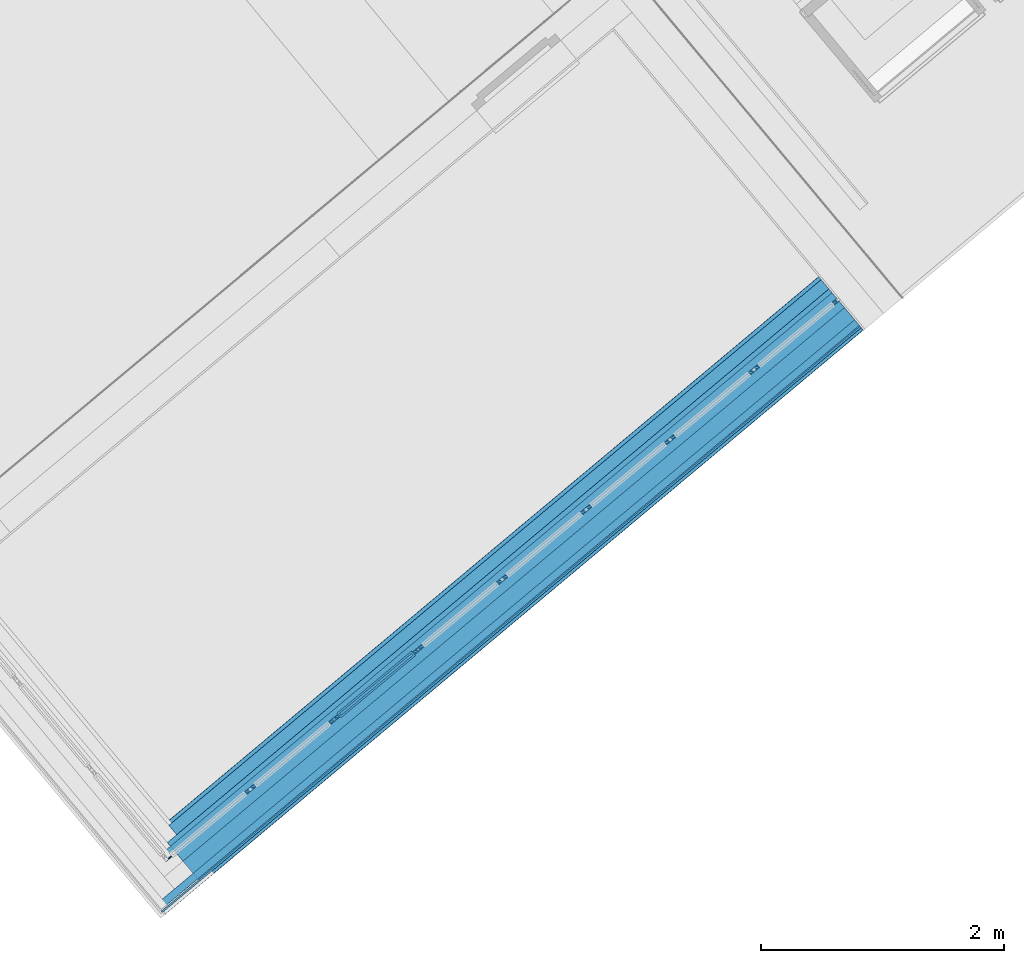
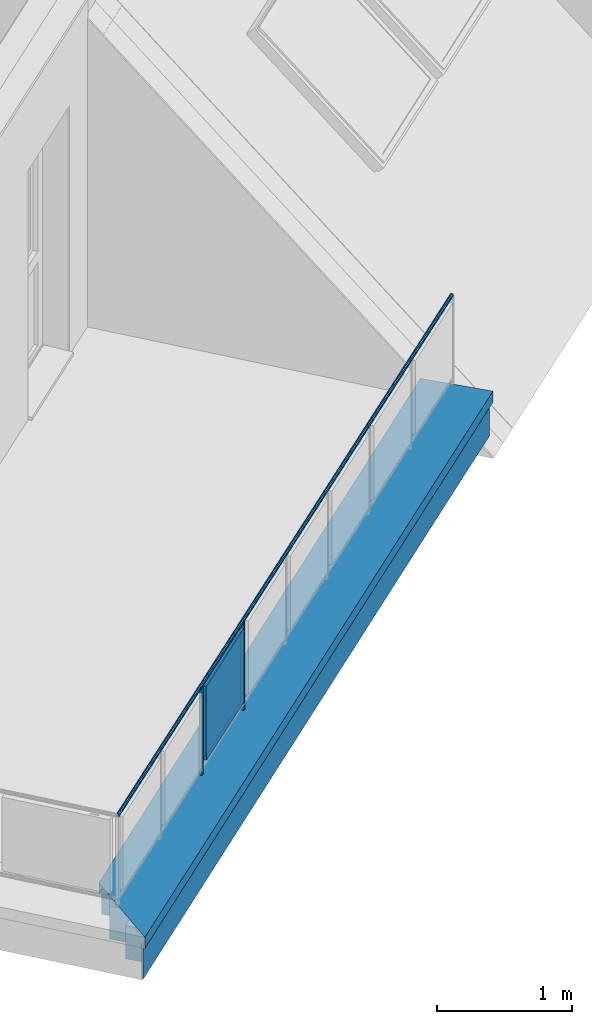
# One storey, part 13 of 47: 14 building element parts, 2 elements without a shape of their own.
"""IFC4 building model written with IfcOpenShell, lengths in metres."""

import ifcopenshell
import ifcopenshell.guid

model = None  # the IFC model being written
_history = None  # IfcOwnerHistory: only IFC2X3 demands one
_inside = {}  # id of a spatial element -> (the spatial element, [elements in it])
_under = {}  # id of a project, library or spatial element -> (it, [spatial elements below it])
_declared = {}  # id of a project -> (the project, [libraries it declares])
_typed = {}  # id of a type object -> (the type object, [elements of that type])
_made_of = {}  # id of a material, layer set ... -> (it, [elements and type objects made of it])


def new_model(schema):
    """Start an empty IFC model of exactly this schema.

    Asked for "IFC4X3", IfcOpenShell would pick the latest addendum, in which some entities
    have other attributes; the version numbers below select the first issue.
    IFC2X3 requires an IfcOwnerHistory on every rooted entity: one is made here for all.
    """
    global model, _history
    if schema == "IFC4X3":
        model = ifcopenshell.file(schema_version=(4, 3, 0, 0))
    else:
        model = ifcopenshell.file(schema=schema)
    _inside.clear()
    _under.clear()
    _declared.clear()
    _typed.clear()
    _made_of.clear()
    _history = None
    if model.schema == "IFC2X3":
        org = make("IfcOrganization", Name="unknown")
        user = make(
            "IfcPersonAndOrganization",
            ThePerson=make("IfcPerson", FamilyName="unknown"),
            TheOrganization=org,
        )
        app = make(
            "IfcApplication",
            ApplicationDeveloper=org,
            Version="unknown",
            ApplicationFullName="unknown",
            ApplicationIdentifier="unknown",
        )
        _history = make(
            "IfcOwnerHistory",
            OwningUser=user,
            OwningApplication=app,
            ChangeAction="ADDED",
            CreationDate=0,
        )
    return model


def make(cls, **values):
    """One entity of the class cls with the attributes given. An attribute that is None is left unset."""
    return model.create_entity(
        cls, **{name: value for name, value in values.items() if value is not None}
    )


def entity(cls, *values):
    """Any entity or typed value of the class cls, its attributes in the order of the schema. None: left unset."""
    e = model.create_entity(cls)
    for i, value in enumerate(values):
        if value is not None:
            e[i] = value
    return e


def rooted(cls, **values):
    """An entity with a GlobalId (a new one), such as an element, a storey or a relation."""
    return make(cls, GlobalId=ifcopenshell.guid.new(), OwnerHistory=_history, **values)


def si_unit(unit_type, name, prefix=None):
    """IfcSIUnit, for example si_unit("LENGTHUNIT", "METRE", prefix="MILLI")."""
    return make("IfcSIUnit", UnitType=unit_type, Prefix=prefix, Name=name)


def converted_unit(unit_type, name, factor, base, dimensions=None, offset=None):
    """IfcConversionBasedUnit, such as the inch: factor (a typed value) times the base unit."""
    return make(
        "IfcConversionBasedUnit"
        if offset is None
        else "IfcConversionBasedUnitWithOffset",
        ConversionOffset=offset,
        Dimensions=None
        if dimensions is None
        else entity("IfcDimensionalExponents", *dimensions),
        UnitType=unit_type,
        Name=name,
        ConversionFactor=make(
            "IfcMeasureWithUnit", ValueComponent=factor, UnitComponent=base
        ),
    )


def derived_unit(unit_type, elements):
    """IfcDerivedUnit: a product of units, each with its exponent."""
    return make(
        "IfcDerivedUnit",
        Elements=[
            make("IfcDerivedUnitElement", Unit=unit, Exponent=power)
            for unit, power in elements
        ],
        UnitType=unit_type,
    )


def assignment(units):
    """IfcUnitAssignment: the units of a project."""
    return None if units is None else make("IfcUnitAssignment", Units=units)


def point(xyz):
    """IfcCartesianPoint."""
    return None if xyz is None else make("IfcCartesianPoint", Coordinates=xyz)


def direction(xyz):
    """IfcDirection."""
    return None if xyz is None else make("IfcDirection", DirectionRatios=xyz)


def frame(location, z_axis=None, x_axis=None):
    """IfcAxis2Placement3D, a coordinate frame: its origin and axes. An axis left out is left unset."""
    return make(
        "IfcAxis2Placement3D",
        Location=point(location),
        Axis=direction(z_axis),
        RefDirection=direction(x_axis),
    )


def origin_with_axes():
    """The frame at (0, 0, 0) with the z axis (0, 0, 1) and the x axis (1, 0, 0) written out."""
    return frame((0.0, 0.0, 0.0), z_axis=(0.0, 0.0, 1.0), x_axis=(1.0, 0.0, 0.0))


def place(relative_to, where):
    """IfcLocalPlacement: puts the frame where relative to a parent placement (None: the world)."""
    return make(
        "IfcLocalPlacement", PlacementRelTo=relative_to, RelativePlacement=where
    )


def context(
    kind, dimensions, precision=None, world=None, true_north=None, identifier=None
):
    """IfcGeometricRepresentationContext, for example the 3D "Model" context."""
    return make(
        "IfcGeometricRepresentationContext",
        ContextIdentifier=identifier,
        ContextType=kind,
        CoordinateSpaceDimension=dimensions,
        Precision=precision,
        WorldCoordinateSystem=world,
        TrueNorth=true_north,
    )


def subcontext(parent, identifier, kind, view, scale=None):
    """IfcGeometricRepresentationSubContext, for example "Body" below "Model"."""
    return make(
        "IfcGeometricRepresentationSubContext",
        ContextIdentifier=identifier,
        ContextType=kind,
        ParentContext=parent,
        TargetScale=scale,
        TargetView=view,
    )


def project(units=None, contexts=None):
    """IfcProject with its units and contexts."""
    return rooted(
        "IfcProject",
        Name="project",
        RepresentationContexts=contexts,
        UnitsInContext=assignment(units),
    )


def spatial(cls, under=None, at=None, **own):
    """A site, building, storey or space (cls), placed at a placement, below another one or the project."""
    s = rooted(cls, ObjectPlacement=at, **own)
    if under is not None:
        _under.setdefault(under.id(), (under, []))[1].append(s)
    return s


def point_list(points):
    """IfcCartesianPointList2D or 3D."""
    cls = (
        "IfcCartesianPointList2D" if len(points[0]) == 2 else "IfcCartesianPointList3D"
    )
    return make(cls, CoordList=points)


def polygons(points, faces, closed=None, point_numbers=None):
    """IfcPolygonalFaceSet: a face is its outer loop, then its inner loops; points numbered from 1."""
    made = []
    for loops in faces:
        if len(loops) == 1:
            made.append(make("IfcIndexedPolygonalFace", CoordIndex=loops[0]))
        else:
            made.append(
                make(
                    "IfcIndexedPolygonalFaceWithVoids",
                    CoordIndex=loops[0],
                    InnerCoordIndices=loops[1:],
                )
            )
    return make(
        "IfcPolygonalFaceSet",
        Coordinates=point_list(points),
        Closed=closed,
        Faces=made,
        PnIndex=point_numbers,
    )


def shape(context_of_items, identifier, shape_type, items):
    """IfcShapeRepresentation: the items that make up one representation, for example the "Body"."""
    return make(
        "IfcShapeRepresentation",
        ContextOfItems=context_of_items,
        RepresentationIdentifier=identifier,
        RepresentationType=shape_type,
        Items=items,
    )


def material(Name=None, Category=None):
    """IfcMaterial."""
    return make("IfcMaterial", Name=Name, Category=Category)


def made_of(thing, what):
    """Note that an element or type object is made of a material, layer set ...; save() writes the relation."""
    if what is not None:
        _made_of.setdefault(what.id(), (what, []))[1].append(thing)
    return thing


def type_object(cls, material=None, **own):
    """A type object (cls), such as IfcWallType, which elements share."""
    return made_of(rooted(cls, **own), material)


def element(
    cls,
    number,
    at=None,
    inside=None,
    cuts=None,
    type_object=None,
    material=None,
    context=None,
    identifier="Body",
    shape_type=None,
    held_by="IfcProductDefinitionShape",
    body=None,
    shapes=None,
    **own,
):
    """One element of the class cls, such as IfcWall. Its Tag is "e" and its number.

    at: its placement. inside: the storey or other place that contains it. cuts: it is an
    opening in that element (IfcRelVoidsElement). A single representation is given by context,
    identifier, shape_type and body (its items); several are given by shapes. held_by: the class
    of the entity that holds the representations. save() writes the other relations.
    """
    e = rooted(cls, Tag="e%d" % number, ObjectPlacement=at, **own)
    if body is not None:
        shapes = [shape(context, identifier, shape_type, body)]
    if shapes is not None:
        e.Representation = make(held_by, Representations=shapes)
    if inside is not None:
        _inside.setdefault(inside.id(), (inside, []))[1].append(e)
    if cuts is not None:
        rooted(
            "IfcRelVoidsElement", RelatingBuildingElement=cuts, RelatedOpeningElement=e
        )
    if type_object is not None:
        _typed.setdefault(type_object.id(), (type_object, []))[1].append(e)
    return made_of(e, material)


def aggregate(whole, parts):
    """IfcRelAggregates: a whole, such as a stair, and the parts it consists of."""
    return rooted("IfcRelAggregates", RelatingObject=whole, RelatedObjects=parts)


def save(model, path):
    """Write the relations noted so far, then the file.

    IfcRelAggregates (storeys below a building ...), IfcRelContainedInSpatialStructure (elements
    in a storey), IfcRelDefinesByType, IfcRelAssociatesMaterial and IfcRelDeclares: one each for
    every whole, place, type object, material and project.
    """
    for whole, parts in _under.values():
        aggregate(whole, parts)
    for where, things in _inside.values():
        rooted(
            "IfcRelContainedInSpatialStructure",
            RelatedElements=things,
            RelatingStructure=where,
        )
    for kind, things in _typed.values():
        rooted("IfcRelDefinesByType", RelatedObjects=things, RelatingType=kind)
    for what, things in _made_of.values():
        rooted("IfcRelAssociatesMaterial", RelatedObjects=things, RelatingMaterial=what)
    for by, libraries in _declared.values():
        rooted("IfcRelDeclares", RelatingContext=by, RelatedDefinitions=libraries)
    model.write(path)


model = new_model("IFC4")

# Units and contexts
model_context = context("Model", 3, precision=1e-05, world=origin_with_axes(), true_north=direction((0.0, 1.0)))
body_context = subcontext(model_context, "Body", "Model", "MODEL_VIEW")
ifc_project = project(units=[si_unit("LENGTHUNIT", "METRE"), si_unit("AREAUNIT", "SQUARE_METRE"), si_unit("VOLUMEUNIT", "CUBIC_METRE"), converted_unit("PLANEANGLEUNIT", "DEGREE", entity("IfcPlaneAngleMeasure", 0.0174532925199), si_unit("PLANEANGLEUNIT", "RADIAN"), dimensions=[0, 0, 0, 0, 0, 0, 0]), converted_unit("TIMEUNIT", "Year", entity("IfcTimeMeasure", 31556926.0), si_unit("TIMEUNIT", "SECOND"), dimensions=[0, 0, 1, 0, 0, 0, 0]), si_unit("MASSUNIT", "GRAM", prefix="KILO"), si_unit("THERMODYNAMICTEMPERATUREUNIT", "DEGREE_CELSIUS"), si_unit("LUMINOUSINTENSITYUNIT", "LUMEN"), si_unit("ENERGYUNIT", "JOULE", prefix="MEGA"), derived_unit("THERMALCONDUCTANCEUNIT", [(si_unit("POWERUNIT", "WATT"), 1), (si_unit("LENGTHUNIT", "METRE"), -1), (si_unit("THERMODYNAMICTEMPERATUREUNIT", "KELVIN"), -1)]), derived_unit("SPECIFICHEATCAPACITYUNIT", [(si_unit("ENERGYUNIT", "JOULE"), 1), (si_unit("MASSUNIT", "GRAM", prefix="KILO"), -1), (si_unit("THERMODYNAMICTEMPERATUREUNIT", "KELVIN"), -1)]), derived_unit("MASSDENSITYUNIT", [(si_unit("MASSUNIT", "GRAM", prefix="KILO"), 1), (si_unit("VOLUMEUNIT", "CUBIC_METRE"), -1)])], contexts=[model_context])

# Site, building, storey
site_placement = place(None, frame((-0.00153261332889, -0.00661245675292, 0.0), z_axis=(0.0, 0.0, 1.0), x_axis=(1.0, 0.0, 0.0)))
site = spatial("IfcSite", under=ifc_project, at=site_placement, Name="Site", CompositionType="ELEMENT")
building_placement = place(site_placement, origin_with_axes())
building = spatial("IfcBuilding", under=site, at=building_placement, Name="Building", CompositionType="ELEMENT")
storey_placement = place(building_placement, frame((0.0, 0.0, 8.66), z_axis=(0.0, 0.0, 1.0), x_axis=(1.0, 0.0, 0.0)))
storey = spatial("IfcBuildingStorey", under=building, at=storey_placement, Name="DG2", CompositionType="ELEMENT", Elevation=8.66)

# Wall, building element parts
wall_type = type_object("IfcWallType", Name="Bauteil - Attika Terrasse 1.DG 574 x 410", PredefinedType="NOTDEFINED")
wall_placement = place(storey_placement, frame((-1.23091753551, 10.4352832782, -0.2), z_axis=(0.0, 0.0, 1.0), x_axis=(0.766948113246, 0.641709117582, 0.0)))
wall = element("IfcWall", 1, at=wall_placement, inside=storey, type_object=wall_type, Name="Wand-004", PredefinedType="NOTDEFINED")
ifc_material_1 = material(Name="Stahl")
building_element_part_1_placement = place(wall_placement, origin_with_axes())
building_element_part_1 = element("IfcBuildingElementPart", 2, at=building_element_part_1_placement, material=ifc_material_1, Name="Stahl", PredefinedType="NOTDEFINED", context=body_context, shape_type="Tessellation", body=[
    polygons([(-0.24030865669, -0.241500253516, 0.586106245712), (-0.240308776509, -0.241500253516, 0.587938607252), (-0.240307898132, -0.240151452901, 0.587938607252), (-0.240307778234, -0.240151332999, 0.586106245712), (-0.240304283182, -0.241500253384, 0.519224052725), (-0.240303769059, -0.241500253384, 0.511361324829), (-0.23838920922, -0.241500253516, 0.511361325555), (-0.239743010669, -0.241500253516, 0.510007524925), (7.29218276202, -0.241500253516, 0.510007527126), (7.29218276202, -0.241500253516, 0.610006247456), (-0.241657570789, -0.241500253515, 0.610006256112), (-0.202887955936, -0.241500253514, 0.608602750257), (-0.240310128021, -0.241500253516, 0.608602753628), (-0.240310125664, -0.241500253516, 0.608570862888), (-0.24030852, -0.241500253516, 0.584015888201), (-0.240307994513, -0.241500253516, 0.575979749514), (-0.240307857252, -0.241500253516, 0.573880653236), (-0.240307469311, -0.241500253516, 0.567947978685), (-0.240306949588, -0.241500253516, 0.560000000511), (-0.240309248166, -0.240152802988, 0.608570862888), (-0.238388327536, -0.24014644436, 0.511361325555), (-0.240302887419, -0.24014644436, 0.511361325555), (-0.240303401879, -0.240146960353, 0.519224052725), (-0.240306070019, -0.240149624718, 0.560000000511), (-0.240306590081, -0.240150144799, 0.567947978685), (-0.240306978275, -0.240150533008, 0.573880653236), (-0.240307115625, -0.240150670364, 0.575979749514), (-0.240307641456, -0.240151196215, 0.584015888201), (-0.240309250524, -0.240152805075, 0.608602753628), (-0.202887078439, -0.240152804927, 0.608602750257), (7.29218276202, -0.240152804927, 0.608602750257), (7.29218276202, -0.240146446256, 0.51136132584), (-0.240699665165, -0.240542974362, 0.50905023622), (-0.238387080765, -0.238231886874, 0.511361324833), (7.29218276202, -0.240542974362, 0.509050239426), (7.29218276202, 0.330698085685, 0.491006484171), (7.29218276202, 0.32288233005, 0.498822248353), (7.29218276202, 0.321878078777, 0.497911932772), (7.29218276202, 0.331094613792, 0.488695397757), (7.29218276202, 0.332051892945, 0.489652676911), (7.29218276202, 0.332051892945, 0.589243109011), (7.29218276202, -0.231373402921, 0.518219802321), (7.29218276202, -0.232283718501, 0.519224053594), (7.29218276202, -0.239276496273, 0.608570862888), (7.29218276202, 0.330698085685, 0.587937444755), (-0.202862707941, -0.202730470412, 0.608602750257), (0.332268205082, 0.332051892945, 0.589243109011), (-0.201981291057, -0.201849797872, 0.608570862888), (-0.202005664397, -0.239276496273, 0.608570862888), (-0.231525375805, -0.233287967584, 0.518219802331), (-0.232435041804, -0.23228372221, 0.519224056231), (-0.23152412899, -0.23137340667, 0.518219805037), (0.330913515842, 0.33069808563, 0.49100648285), (0.323092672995, 0.322882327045, 0.498822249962), (0.332267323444, 0.330698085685, 0.491006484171), (0.32400232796, 0.32187807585, 0.497911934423), (0.332266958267, 0.330137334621, 0.489652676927), (0.331310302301, 0.331094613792, 0.488695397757), (0.330912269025, 0.328783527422, 0.49100648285), (0.332266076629, 0.328783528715, 0.491006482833), (0.332268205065, 0.332051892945, 0.489652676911), (0.332268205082, 0.332051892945, 0.49100648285), (0.332268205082, 0.332051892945, 0.498822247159), (0.332268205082, 0.332051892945, 0.499999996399), (0.332268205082, 0.332051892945, 0.50905023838), (0.332268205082, 0.332051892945, 0.511361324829), (0.332268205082, 0.332051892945, 0.519224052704), (0.332268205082, 0.332051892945, 0.559999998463), (0.332268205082, 0.332051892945, 0.567947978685), (0.332268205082, 0.332051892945, 0.573880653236), (0.332268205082, 0.332051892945, 0.575979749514), (0.332268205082, 0.332051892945, 0.584015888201), (0.332268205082, 0.332051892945, 0.586106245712), (0.332268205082, 0.332051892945, 0.587938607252), (0.332243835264, 0.294630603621, 0.589243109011), (0.332267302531, 0.330665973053, 0.587938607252), (0.332267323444, 0.330698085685, 0.587937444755), (0.332267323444, 0.330698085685, 0.498822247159), (0.332267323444, 0.330698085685, 0.586106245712), (0.332267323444, 0.330698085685, 0.584015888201), (0.332267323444, 0.330698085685, 0.575979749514), (0.332267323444, 0.330698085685, 0.573880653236), (0.332267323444, 0.330698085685, 0.567947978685), (0.332267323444, 0.330698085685, 0.559999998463), (0.332267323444, 0.330698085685, 0.519224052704), (0.332267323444, 0.330698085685, 0.511361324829), (0.332267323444, 0.330698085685, 0.50905023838), (0.332267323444, 0.330698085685, 0.499999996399)], [[[1, 2, 3, 4]], [[5, 6, 7, 8, 9, 10, 11, 12, 13, 14, 2, 1, 15, 16, 17, 18, 19]], [[14, 20, 3, 2]], [[21, 22, 23, 24, 25, 26, 27, 28, 4, 3, 20, 29, 30, 31, 32]], [[15, 1, 4, 28]], [[22, 6, 5, 23]], [[6, 22, 21, 7]], [[33, 8, 7, 21, 34]], [[8, 33, 35, 9]], [[36, 37, 38, 39, 40, 41, 10, 9, 35, 42, 43, 32, 31, 44, 45]], [[46, 11, 10, 41, 47, 48]], [[12, 11, 46, 30]], [[29, 13, 12, 30]], [[20, 14, 13, 29]], [[16, 15, 28, 27]], [[17, 16, 27, 26]], [[18, 17, 26, 25]], [[19, 18, 25, 24]], [[5, 19, 24, 23]], [[30, 49, 44, 31]], [[50, 21, 32, 43, 51]], [[34, 21, 50, 52]], [[33, 34, 52, 42, 35]], [[53, 54, 37, 36, 55]], [[54, 56, 38, 37]], [[57, 58, 39, 38, 56, 59, 60]], [[58, 61, 40, 39]], [[62, 63, 64, 65, 66, 67, 68, 69, 70, 71, 72, 73, 74, 47, 41, 40, 61]], [[52, 51, 43, 42]], [[49, 75, 76, 77, 45, 44]], [[78, 55, 36, 45, 77, 79, 80, 81, 82, 83, 84, 85, 86, 87, 88]], [[49, 48, 47, 75]], [[48, 49, 30, 46]], [[51, 52, 50]], [[56, 54, 53, 59]], [[53, 55, 60, 59]], [[58, 57, 61]], [[60, 55, 62, 61, 57]], [[55, 78, 63, 62]], [[78, 88, 64, 63]], [[88, 87, 65, 64]], [[87, 86, 66, 65]], [[86, 85, 67, 66]], [[85, 84, 68, 67]], [[68, 84, 83, 69]], [[69, 83, 82, 70]], [[81, 71, 70, 82]], [[71, 81, 80, 72]], [[72, 80, 79, 73]], [[73, 79, 77, 74]], [[76, 75, 47, 74, 77]]], closed=True),
])
ifc_material_2 = material(Name="Holzwerkstoff")
building_element_part_2_placement = place(wall_placement, origin_with_axes())
building_element_part_2 = element("IfcBuildingElementPart", 3, at=building_element_part_2_placement, material=ifc_material_2, Name="Holzwerkstoff", PredefinedType="NOTDEFINED", context=body_context, shape_type="Tessellation", body=[
    polygons([(-0.239432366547, -0.239276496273, 0.608570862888), (0.330913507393, 0.330698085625, 0.587938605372), (0.330541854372, -0.23999699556, 0.587938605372), (7.29218276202, -0.239276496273, 0.608570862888), (7.29218276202, 0.330698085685, 0.587938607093), (0.330849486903, 0.330634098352, 0.586106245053), (0.330510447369, -0.189985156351, 0.5861062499), (0.330538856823, -0.239999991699, 0.587852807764), (7.29218276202, -0.239999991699, 0.587852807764), (7.29218276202, 0.160110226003, 0.573880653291), (7.29218276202, 0.329999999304, 0.567947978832), (7.29218276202, -0.189984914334, 0.586106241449), (7.29218276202, -0.130124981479, 0.584015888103), (7.29218276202, 0.100000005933, 0.575979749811), (0.330214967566, 0.329999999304, 0.567947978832), (0.330422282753, 0.330207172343, 0.573880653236), (0.33049563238, 0.330280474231, 0.57597974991), (0.330776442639, 0.330561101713, 0.584015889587), (0.330476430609, -0.130125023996, 0.584015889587), (0.330311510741, 0.160110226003, 0.573880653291), (0.330345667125, 0.100000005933, 0.575979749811)], [[[1, 2, 3]], [[2, 1, 4, 5]], [[2, 6, 7, 8, 3]], [[1, 3, 8, 9, 4]], [[10, 11, 5, 4, 9, 12, 13, 14]], [[15, 16, 17, 18, 6, 2, 5, 11]], [[18, 19, 7, 6]], [[8, 7, 12, 9]], [[20, 15, 11, 10]], [[7, 19, 13, 12]], [[21, 14, 13, 19]], [[21, 20, 10, 14]], [[15, 20, 16]], [[20, 21, 17, 16]], [[17, 21, 19, 18]]], closed=True),
])
ifc_material_3 = material(Name="EPS 1")
building_element_part_3_placement = place(wall_placement, origin_with_axes())
building_element_part_3 = element("IfcBuildingElementPart", 4, at=building_element_part_3_placement, material=ifc_material_3, Name="EPS 1", PredefinedType="NOTDEFINED", context=body_context, shape_type="Tessellation", body=[
    polygons([(0.300195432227, 0.3, 0.560000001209), (0.300130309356, 0.2, 0.560000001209), (7.29218276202, 0.2, 0.560000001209), (7.29218276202, 0.3, 0.560000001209), (0.300130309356, 0.2, 0.519224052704), (0.300195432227, 0.3, 0.519224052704), (0.300130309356, 0.2, 0.511361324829), (0.300130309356, 0.2, 0.50905023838), (0.300130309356, 0.2, 0.499999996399), (0.300130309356, 0.2, 0.498822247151), (0.300130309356, 0.2, 0.49100648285), (0.300130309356, 0.2, 0.488695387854), (0.300130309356, 0.2, 0.335), (7.29218276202, 0.2, 0.335), (7.29218276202, 0.3, 0.335), (0.300195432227, 0.3, 0.335), (0.300195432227, 0.3, 0.488695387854), (0.300195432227, 0.3, 0.49100648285), (0.300195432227, 0.3, 0.498822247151), (0.300195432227, 0.3, 0.499999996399), (0.300195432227, 0.3, 0.50905023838), (0.300195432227, 0.3, 0.511361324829)], [[[1, 2, 3, 4]], [[5, 2, 1, 6]], [[2, 5, 7, 8, 9, 10, 11, 12, 13, 14, 3]], [[14, 15, 4, 3]], [[6, 1, 4, 15, 16, 17, 18, 19, 20, 21, 22]], [[5, 6, 22, 7]], [[7, 22, 21, 8]], [[8, 21, 20, 9]], [[9, 20, 19, 10]], [[10, 19, 18, 11]], [[11, 18, 17, 12]], [[12, 17, 16, 13]], [[13, 16, 15, 14]]], closed=True),
])
ifc_material_4 = material(Name="Vollholz")
building_element_part_4_placement = place(wall_placement, origin_with_axes())
building_element_part_4 = element("IfcBuildingElementPart", 5, at=building_element_part_4_placement, material=ifc_material_4, Name="Vollholz", PredefinedType="NOTDEFINED", context=body_context, shape_type="Tessellation", body=[
    polygons([(0.100065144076, 0.100000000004, 0.575979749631), (0.16017538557, 0.1, 0.573880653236), (0.160128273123, 0.1, 0.567947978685), (0.160065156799, 0.1, 0.560000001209), (7.29218276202, 0.1, 0.560000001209), (7.29218276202, 0.1, 0.575979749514), (0.160214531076, 0.160110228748, 0.573880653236), (0.160167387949, 0.160063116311, 0.567947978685), (0.160104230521, 0.16, 0.560000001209), (7.29218276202, 0.16, 0.560000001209), (7.29218276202, 0.160110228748, 0.573880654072)], [[[1, 2, 3, 4, 5, 6]], [[7, 2, 1]], [[2, 7, 8, 3]], [[3, 8, 9, 4]], [[4, 9, 10, 5]], [[10, 11, 6, 5]], [[7, 1, 6, 11]], [[8, 7, 11, 10, 9]]], closed=True),
])
ifc_material_5 = material(Name="Stahlbeton")
building_element_part_5_placement = place(wall_placement, origin_with_axes())
building_element_part_5 = element("IfcBuildingElementPart", 6, at=building_element_part_5_placement, material=ifc_material_5, Name="Stahlbeton", PredefinedType="NOTDEFINED", context=body_context, shape_type="Tessellation", body=[
    polygons([(0.200130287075, 0.199999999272, 0.500000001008), (0.200000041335, 2.17661977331e-09, 0.500000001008), (7.29218276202, 1.82835790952e-09, 0.500000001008), (7.29218276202, 0.199999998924, 0.500000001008), (0.200000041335, 2.19700169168e-09, 0.498822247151), (0.200130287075, 0.199999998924, 0.498822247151), (0.200000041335, 2.19700169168e-09, 0.49100648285), (0.200000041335, 2.19700169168e-09, 0.488695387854), (0.200000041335, 2.19699991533e-09, 0.335), (0.200000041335, 1.82835790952e-09, 0.2), (7.29218276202, 1.82835790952e-09, 0.2), (7.29218276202, 0.199999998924, 0.2), (7.29218276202, 0.199999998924, 0.335000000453), (0.200130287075, 0.199999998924, 0.335), (0.200130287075, 0.199999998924, 0.488695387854), (0.200130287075, 0.199999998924, 0.49100648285), (0.200130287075, 0.199999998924, 0.2)], [[[1, 2, 3, 4]], [[5, 2, 1, 6]], [[2, 5, 7, 8, 9, 10, 11, 3]], [[12, 13, 4, 3, 11]], [[6, 1, 4, 13, 14, 15, 16]], [[5, 6, 16, 7]], [[7, 16, 15, 8]], [[8, 15, 14, 9]], [[9, 14, 17, 10]], [[10, 17, 12, 11]], [[17, 14, 13, 12]]], closed=True),
])
building_element_part_6_placement = place(wall_placement, origin_with_axes())
building_element_part_6 = element("IfcBuildingElementPart", 7, at=building_element_part_6_placement, material=ifc_material_3, Name="EPS 1", PredefinedType="NOTDEFINED", context=body_context, shape_type="Tessellation", body=[
    polygons([(-2.39831265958e-10, 1.18175691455e-10, 0.499999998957), (-0.000130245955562, -0.199999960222, 0.499999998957), (7.29218276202, -0.19999996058, 0.499999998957), (7.29218276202, -2.39907649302e-10, 0.499999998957), (-0.000130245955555, -0.199999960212, 0.498822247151), (-2.40063968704e-10, -2.39907649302e-10, 0.498822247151), (-0.000130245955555, -0.199999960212, 0.49100648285), (-0.000130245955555, -0.199999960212, 0.488695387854), (-0.000130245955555, -0.199999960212, 0.335), (-0.000130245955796, -0.19999996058, 0.2), (7.29218276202, -0.19999996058, 0.2), (7.29218276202, -2.39907649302e-10, 0.2), (-2.40063968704e-10, -2.39907649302e-10, 0.2), (-2.40063968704e-10, -2.39907649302e-10, 0.335), (-2.40063968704e-10, -2.39907649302e-10, 0.488695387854), (-2.40063968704e-10, -2.39907649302e-10, 0.49100648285)], [[[1, 2, 3, 4]], [[5, 2, 1, 6]], [[2, 5, 7, 8, 9, 10, 11, 3]], [[11, 12, 4, 3]], [[6, 1, 4, 12, 13, 14, 15, 16]], [[5, 6, 16, 7]], [[7, 16, 15, 8]], [[8, 15, 14, 9]], [[9, 14, 13, 10]], [[10, 13, 12, 11]]], closed=True),
])
building_element_part_7_placement = place(wall_placement, origin_with_axes())
building_element_part_7 = element("IfcBuildingElementPart", 8, at=building_element_part_7_placement, material=ifc_material_4, Name="Vollholz", PredefinedType="NOTDEFINED", context=body_context, shape_type="Tessellation", body=[
    polygons([(-0.190108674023, -0.189984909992, 0.586106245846), (-0.130248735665, -0.189996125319, 0.584015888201), (-0.130248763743, -0.190039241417, 0.575979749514), (-0.130248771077, -0.190050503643, 0.573880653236), (-0.130248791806, -0.190082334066, 0.567947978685), (-0.130248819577, -0.190124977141, 0.560000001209), (7.29218276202, -0.190124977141, 0.560000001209), (7.29218276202, -0.189984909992, 0.586106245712), (-0.130209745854, -0.130124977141, 0.584015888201), (-0.130209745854, -0.130124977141, 0.575979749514), (-0.130209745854, -0.130124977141, 0.573880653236), (-0.130209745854, -0.130124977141, 0.567947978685), (-0.130209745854, -0.130124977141, 0.560000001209), (7.29218276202, -0.130124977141, 0.560000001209), (7.29218276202, -0.130124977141, 0.584015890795)], [[[1, 2, 3, 4, 5, 6, 7, 8]], [[9, 2, 1]], [[2, 9, 10, 3]], [[3, 10, 11, 4]], [[4, 11, 12, 5]], [[5, 12, 13, 6]], [[6, 13, 14, 7]], [[14, 15, 8, 7]], [[9, 1, 8, 15]], [[10, 9, 15, 14, 13, 12, 11]]], closed=True),
])
ifc_material_6 = material(Name="Zementputz")
building_element_part_8_placement = place(wall_placement, origin_with_axes())
building_element_part_8 = element("IfcBuildingElementPart", 9, at=building_element_part_8_placement, material=ifc_material_6, Name="Zementputz", PredefinedType="NOTDEFINED", context=body_context, shape_type="Tessellation", body=[
    polygons([(-0.20013024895, -0.199999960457, 0.499999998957), (-0.200140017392, -0.214999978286, 0.499999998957), (7.29218276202, -0.214999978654, 0.499999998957), (7.29218276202, -0.199999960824, 0.499999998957), (-0.200140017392, -0.214999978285, 0.498822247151), (-0.20013024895, -0.199999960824, 0.498822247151), (-0.200140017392, -0.214999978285, 0.49100648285), (-0.200140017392, -0.214999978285, 0.488695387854), (-0.200140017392, -0.214999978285, 0.335), (-0.200140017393, -0.214999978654, 0.2), (7.29218276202, -0.214999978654, 0.2), (7.29218276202, -0.199999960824, 0.2), (-0.20013024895, -0.199999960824, 0.2), (-0.20013024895, -0.199999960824, 0.335), (-0.20013024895, -0.199999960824, 0.488695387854), (-0.20013024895, -0.199999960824, 0.49100648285)], [[[1, 2, 3, 4]], [[5, 2, 1, 6]], [[2, 5, 7, 8, 9, 10, 11, 3]], [[3, 11, 12, 4]], [[6, 1, 4, 12, 13, 14, 15, 16]], [[5, 6, 16, 7]], [[7, 16, 15, 8]], [[8, 15, 14, 9]], [[9, 14, 13, 10]], [[10, 13, 12, 11]]], closed=True),
])
ifc_material_7 = material(Name="Brettschichtholz")
building_element_part_9_placement = place(wall_placement, origin_with_axes())
building_element_part_9 = element("IfcBuildingElementPart", 10, at=building_element_part_9_placement, material=ifc_material_7, Name="Brettschichtholz", PredefinedType="NOTDEFINED", context=body_context, shape_type="Tessellation", body=[
    polygons([(0.199876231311, -0.190124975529, 0.559999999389), (0.199860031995, -0.214999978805, 0.559999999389), (7.29218276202, -0.214999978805, 0.559999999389), (7.29218276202, -0.190124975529, 0.559999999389), (0.199860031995, -0.214999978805, 0.519224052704), (0.199915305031, -0.130124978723, 0.559999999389), (0.200065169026, 0.100000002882, 0.559999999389), (0.200104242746, 0.159999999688, 0.559999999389), (0.200130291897, 0.200000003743, 0.559999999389), (0.200130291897, 0.200000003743, 0.519224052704), (0.199860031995, -0.214999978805, 0.511361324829), (0.199860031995, -0.214999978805, 0.50905023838), (0.199860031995, -0.214999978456, 0.500000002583), (7.29218276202, -0.214999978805, 0.499999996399), (7.29218276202, 0.100000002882, 0.559999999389), (7.29218276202, -0.130124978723, 0.559999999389), (7.29218276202, 0.200000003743, 0.500000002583), (7.29218276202, 0.200000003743, 0.559999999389), (7.29218276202, 0.159999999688, 0.559999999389), (0.200130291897, 0.200000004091, 0.500000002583), (0.200130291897, 0.200000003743, 0.50905023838), (0.200130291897, 0.200000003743, 0.511361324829)], [[[1, 2, 3, 4]], [[5, 2, 1, 6, 7, 8, 9, 10]], [[2, 5, 11, 12, 13, 14, 3]], [[15, 16, 4, 3, 14, 17, 18, 19]], [[6, 1, 4, 16]], [[7, 6, 16, 15]], [[8, 7, 15, 19]], [[9, 8, 19, 18]], [[10, 9, 18, 17, 20, 21, 22]], [[5, 10, 22, 11]], [[11, 22, 21, 12]], [[12, 21, 20, 13]], [[13, 20, 17, 14]]], closed=True),
])
aggregate(wall, [building_element_part_1, building_element_part_2, building_element_part_3, building_element_part_4, building_element_part_5, building_element_part_6, building_element_part_7, building_element_part_8, building_element_part_9])

# Railing, building element parts
railing_type = type_object("IfcRailingType", Name="Geländerart", PredefinedType="NOTDEFINED")
railing_placement = place(storey_placement, frame((-3.01466342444, 12.8116891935, 0.38), z_axis=(0.0, 0.0, 1.0), x_axis=(1.0, 0.0, 0.0)))
railing = element("IfcRailing", 11, at=railing_placement, inside=storey, type_object=railing_type, Name="Geländer - 001", PredefinedType="NOTDEFINED")
ifc_material_8 = material(Name="Aluminium")
building_element_part_10_placement = place(railing_placement, origin_with_axes())
building_element_part_10 = element("IfcBuildingElementPart", 12, at=building_element_part_10_placement, material=ifc_material_8, Name="Aluminium", PredefinedType="NOTDEFINED", context=body_context, shape_type="Tessellation", body=[
    polygons([(1.80279568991, -2.21040989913, 0.825), (1.80276676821, -2.21073055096, 0.827604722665), (7.31327435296, 2.37859456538, 0.827604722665), (7.31312851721, 2.37876967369, 0.825), (1.80276676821, -2.21073055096, 0.822395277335), (1.80268088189, -2.21168276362, 0.81986969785), (1.80254064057, -2.21323760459, 0.8175), (1.80235030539, -2.21534783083, 0.815358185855), (1.80211565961, -2.21794932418, 0.813509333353), (1.80184383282, -2.22096303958, 0.812009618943), (1.80154308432, -2.22429740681, 0.810904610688), (1.80122255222, -2.22785111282, 0.810227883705), (1.80089197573, -2.23151618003, 0.81), (1.80056139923, -2.23518124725, 0.810227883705), (1.80024086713, -2.23873495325, 0.810904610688), (1.79994011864, -2.24206932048, 0.812009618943), (1.79966829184, -2.24508303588, 0.813509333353), (1.79943364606, -2.24768452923, 0.815358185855), (1.79924331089, -2.24979475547, 0.8175), (1.79910306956, -2.25134959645, 0.81986969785), (1.79901718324, -2.2523018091, 0.822395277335), (1.79898826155, -2.25262246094, 0.825), (1.79901718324, -2.2523018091, 0.827604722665), (1.79910306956, -2.25134959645, 0.83013030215), (1.79924331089, -2.24979475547, 0.8325), (1.79943364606, -2.24768452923, 0.834641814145), (1.79966829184, -2.24508303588, 0.836490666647), (1.79994011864, -2.24206932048, 0.837990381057), (1.80024086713, -2.23873495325, 0.839095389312), (1.80056139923, -2.23518124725, 0.839772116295), (1.80089197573, -2.23151618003, 0.84), (1.80122255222, -2.22785111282, 0.839772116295), (1.80154308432, -2.22429740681, 0.839095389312), (1.80184383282, -2.22096303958, 0.837990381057), (1.80211565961, -2.21794932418, 0.836490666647), (1.80235030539, -2.21534783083, 0.834641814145), (1.80254064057, -2.21323760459, 0.8325), (1.80268088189, -2.21168276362, 0.83013030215), (7.31370742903, 2.37807456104, 0.83013030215), (7.31441458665, 2.37722546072, 0.8325), (7.31537433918, 2.37607306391, 0.834641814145), (7.31655752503, 2.37465238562, 0.836490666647), (7.31792819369, 2.37300659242, 0.837990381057), (7.31944469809, 2.37118569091, 0.839095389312), (7.32106096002, 2.36924500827, 0.839772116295), (7.32272787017, 2.36724351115, 0.84), (7.32439478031, 2.36524201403, 0.839772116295), (7.32601104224, 2.36330133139, 0.839095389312), (7.32752754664, 2.36148042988, 0.837990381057), (7.3288982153, 2.35983463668, 0.836490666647), (7.33008140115, 2.35841395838, 0.834641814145), (7.33104115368, 2.35726156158, 0.8325), (7.3317483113, 2.35641246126, 0.83013030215), (7.33218138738, 2.35589245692, 0.827604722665), (7.33232722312, 2.35571734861, 0.825), (7.33218138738, 2.35589245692, 0.822395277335), (7.3317483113, 2.35641246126, 0.81986969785), (7.33104115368, 2.35726156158, 0.8175), (7.33008140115, 2.35841395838, 0.815358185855), (7.3288982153, 2.35983463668, 0.813509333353), (7.32752754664, 2.36148042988, 0.812009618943), (7.32601104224, 2.36330133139, 0.810904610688), (7.32439478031, 2.36524201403, 0.810227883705), (7.32272787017, 2.36724351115, 0.81), (7.32106096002, 2.36924500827, 0.810227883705), (7.31944469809, 2.37118569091, 0.810904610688), (7.31792819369, 2.37300659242, 0.812009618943), (7.31655752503, 2.37465238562, 0.813509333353), (7.31537433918, 2.37607306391, 0.815358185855), (7.31441458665, 2.37722546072, 0.8175), (7.31370742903, 2.37807456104, 0.81986969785), (7.31327435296, 2.37859456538, 0.822395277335)], [[[1, 2, 3, 4]], [[1, 5, 6, 7, 8, 9, 10, 11, 12, 13, 14, 15, 16, 17, 18, 19, 20, 21, 22, 23, 24, 25, 26, 27, 28, 29, 30, 31, 32, 33, 34, 35, 36, 37, 38, 2]], [[2, 38, 39, 3]], [[4, 3, 39, 40, 41, 42, 43, 44, 45, 46, 47, 48, 49, 50, 51, 52, 53, 54, 55, 56, 57, 58, 59, 60, 61, 62, 63, 64, 65, 66, 67, 68, 69, 70, 71, 72]], [[5, 1, 4, 72]], [[6, 5, 72, 71]], [[7, 6, 71, 70]], [[8, 7, 70, 69]], [[9, 8, 69, 68]], [[10, 9, 68, 67]], [[11, 10, 67, 66]], [[12, 11, 66, 65]], [[13, 12, 65, 64]], [[14, 13, 64, 63]], [[15, 14, 63, 62]], [[16, 15, 62, 61]], [[17, 16, 61, 60]], [[18, 17, 60, 59]], [[19, 18, 59, 58]], [[20, 19, 58, 57]], [[21, 20, 57, 56]], [[22, 21, 56, 55]], [[23, 22, 55, 54]], [[24, 23, 54, 53]], [[25, 24, 53, 52]], [[26, 25, 52, 51]], [[27, 26, 51, 50]], [[28, 27, 50, 49]], [[29, 28, 49, 48]], [[30, 29, 48, 47]], [[31, 30, 47, 46]], [[32, 31, 46, 45]], [[33, 32, 45, 44]], [[34, 33, 44, 43]], [[35, 34, 43, 42]], [[36, 35, 42, 41]], [[37, 36, 41, 40]], [[38, 37, 40, 39]]], closed=True),
])
building_element_part_11_placement = place(railing_placement, origin_with_axes())
building_element_part_11 = element("IfcBuildingElementPart", 13, at=building_element_part_11_placement, material=ifc_material_8, Name="Aluminium", PredefinedType="NOTDEFINED", context=body_context, shape_type="Tessellation", body=[
    polygons([(3.19895554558, -1.0834319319, -0.3), (3.18295662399, -1.06422166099, -0.3), (3.18295662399, -1.06422166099, 0.82), (3.19895554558, -1.0834319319, 0.82), (3.17974527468, -1.09943085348, -0.3), (3.16374635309, -1.08022058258, -0.3), (3.16374635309, -1.08022058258, 0.82), (3.17974527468, -1.09943085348, 0.82)], [[[1, 2, 3, 4]], [[1, 5, 6, 2]], [[2, 6, 7, 3]], [[4, 3, 7, 8]], [[5, 1, 4, 8]], [[6, 5, 8, 7]]], closed=True),
])
ifc_material_9 = material(Name="Profilit")
building_element_part_12_placement = place(railing_placement, origin_with_axes())
building_element_part_12 = element("IfcBuildingElementPart", 14, at=building_element_part_12_placement, material=ifc_material_9, Name="Profilit", PredefinedType="NOTDEFINED", context=body_context, shape_type="Tessellation", body=[
    polygons([(3.81523416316, -0.5408943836, 0.135), (3.22489808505, -1.03254495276, 0.135), (3.22489808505, -1.03254495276, 0.775), (3.81523416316, -0.5408943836, 0.775), (3.23769722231, -1.04791316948, 0.135), (3.82803330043, -0.556262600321, 0.135), (3.23769722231, -1.04791316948, 0.775), (3.82803330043, -0.556262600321, 0.775)], [[[1, 2, 3, 4]], [[5, 2, 1, 6]], [[7, 3, 2, 5]], [[4, 3, 7, 8]], [[1, 4, 8, 6]], [[7, 5, 6, 8]]], closed=True),
])
building_element_part_13_placement = place(railing_placement, origin_with_axes())
building_element_part_13 = element("IfcBuildingElementPart", 15, at=building_element_part_13_placement, material=ifc_material_8, Name="Aluminium", PredefinedType="NOTDEFINED", context=body_context, shape_type="Tessellation", body=[
    polygons([(3.29501268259, -0.983911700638, 0.12), (3.34880144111, -0.9391147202, 0.12), (3.34880144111, -0.9391147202, 0.095), (3.29501268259, -0.983911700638, 0.095), (3.29821246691, -0.987753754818, 0.12), (3.35200122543, -0.94295677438, 0.12), (3.35200122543, -0.94295677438, 0.095), (3.29821246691, -0.987753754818, 0.095)], [[[1, 2, 3, 4]], [[5, 6, 2, 1]], [[2, 6, 7, 3]], [[4, 3, 7, 8]], [[1, 4, 8, 5]], [[8, 7, 6, 5]]], closed=True),
    polygons([(3.75471891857, -0.601053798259, 0.79), (3.70093016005, -0.645850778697, 0.79), (3.70093016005, -0.645850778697, 0.795), (3.75471891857, -0.601053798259, 0.795), (3.75791870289, -0.604895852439, 0.79), (3.70412994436, -0.649692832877, 0.79), (3.70412994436, -0.649692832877, 0.795), (3.75791870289, -0.604895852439, 0.795)], [[[1, 2, 3, 4]], [[5, 6, 2, 1]], [[2, 6, 7, 3]], [[4, 3, 7, 8]], [[1, 4, 8, 5]], [[8, 7, 6, 5]]], closed=True),
    polygons([(3.23577041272, -1.06903868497, 0.12), (3.20377256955, -1.03061814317, 0.12), (3.81716097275, -0.519768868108, 0.12), (3.84915881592, -0.558189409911, 0.12), (3.25113862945, -1.0562395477, 0.14), (3.2415392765, -1.04471338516, 0.14), (3.23769722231, -1.04791316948, 0.135), (3.22489808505, -1.03254495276, 0.135), (3.22874013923, -1.02934516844, 0.14), (3.21914078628, -1.0178190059, 0.14), (3.80179275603, -0.532568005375, 0.14), (3.80179275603, -0.532568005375, 0.77), (3.21914078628, -1.0178190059, 0.77), (3.21914078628, -1.0178190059, 0.14), (3.20377256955, -1.03061814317, 0.12), (3.20377256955, -1.03061814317, 0.79), (3.81716097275, -0.519768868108, 0.79), (3.84915881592, -0.558189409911, 0.79), (3.23577041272, -1.06903868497, 0.79), (3.23577041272, -1.06903868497, 0.12), (3.25113862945, -1.0562395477, 0.14), (3.25113862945, -1.0562395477, 0.77), (3.8337905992, -0.570988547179, 0.77), (3.8337905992, -0.570988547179, 0.14), (3.82419124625, -0.559462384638, 0.14), (3.82419124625, -0.559462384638, 0.77), (3.2415392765, -1.04471338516, 0.77), (3.2415392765, -1.04471338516, 0.14), (3.23769722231, -1.04791316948, 0.135), (3.23769722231, -1.04791316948, 0.775), (3.82803330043, -0.556262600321, 0.775), (3.82803330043, -0.556262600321, 0.135), (3.81523416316, -0.5408943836, 0.135), (3.81523416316, -0.5408943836, 0.775), (3.22489808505, -1.03254495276, 0.775), (3.22489808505, -1.03254495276, 0.135), (3.22874013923, -1.02934516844, 0.14), (3.22874013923, -1.02934516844, 0.77), (3.81139210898, -0.544094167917, 0.77), (3.81139210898, -0.544094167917, 0.14)], [[[1, 2, 3, 4]], [[1, 5, 6, 7, 8, 9, 10, 2]], [[2, 10, 11, 12, 13, 14, 15, 16, 17, 3]], [[4, 3, 17, 18]], [[5, 1, 4, 18, 19, 20, 21, 22, 23, 24]], [[6, 5, 24, 25]], [[7, 6, 25, 26, 27, 28, 29, 30, 31, 32]], [[8, 7, 32, 33]], [[9, 8, 33, 34, 35, 36, 37, 38, 39, 40]], [[10, 9, 40, 11]], [[11, 40, 39, 12]], [[12, 39, 38, 13]], [[13, 38, 37, 14]], [[20, 15, 14, 37, 36, 29, 28, 21]], [[19, 16, 15, 20]], [[18, 17, 16, 19]], [[27, 22, 21, 28]], [[26, 23, 22, 27]], [[25, 24, 23, 26]], [[35, 30, 29, 36]], [[34, 31, 30, 35]], [[33, 32, 31, 34]]], closed=True),
])
building_element_part_14_placement = place(railing_placement, origin_with_axes())
building_element_part_14 = element("IfcBuildingElementPart", 16, at=building_element_part_14_placement, material=ifc_material_8, Name="Aluminium", PredefinedType="NOTDEFINED", context=body_context, shape_type="Tessellation", body=[
    polygons([(3.88918503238, -0.508586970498, -0.3), (3.8731861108, -0.489376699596, -0.3), (3.8731861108, -0.489376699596, 0.82), (3.88918503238, -0.508586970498, 0.82), (3.86997476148, -0.524585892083, -0.3), (3.8539758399, -0.505375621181, -0.3), (3.8539758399, -0.505375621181, 0.82), (3.86997476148, -0.524585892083, 0.82)], [[[1, 2, 3, 4]], [[1, 5, 6, 2]], [[2, 6, 7, 3]], [[4, 3, 7, 8]], [[5, 1, 4, 8]], [[6, 5, 8, 7]]], closed=True),
])
aggregate(railing, [building_element_part_10, building_element_part_11, building_element_part_12, building_element_part_13, building_element_part_14])

save(model, "model.ifc")
